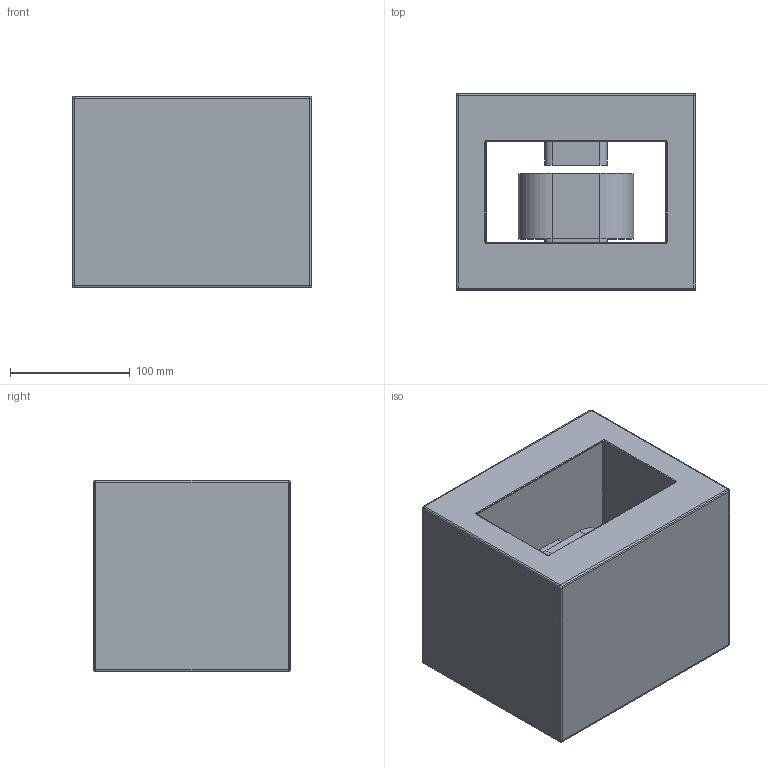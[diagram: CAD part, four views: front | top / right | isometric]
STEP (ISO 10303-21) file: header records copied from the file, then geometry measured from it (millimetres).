
FILE_DESCRIPTION(('STEP AP214'),'1');
FILE_NAME('2023-02-24_SWLS_Sirius_Prototype_CentralCoil_step.step','2023-02-27T13:51:14',(' '),(' '),'Spatial InterOp 3D',' ',' ');
FILE_SCHEMA(('AUTOMOTIVE_DESIGN { 1 0 10303 214 1 1 1 1 }'));
Length unit declared in the file: millimetre
Products named in the file (1): Inferior Copy#1_Coil0ComponentA+Inferior Copy#1_Coil0ComponentB+Inferior Copy#1_Coil0ComponentC+Inferior_Coil0ComponentA+Inferior_Coil0ComponentB+Inferior_Coil0ComponentC Union#1,Body#1
Bounding box: 200 x 164.4 x 160 mm (x, y, z)
Volume: 3487742.2 mm3; surface area: 270246.5 mm2
Topology: 4 solids, 4 shells, 104 faces, 256 edges, 152 vertices
Faces by surface type: cylinder 64, plane 24, sphere 8, torus 8
Entity records: 3096 total; most frequent: DIRECTION 600, CARTESIAN_POINT 508, ORIENTED_EDGE 496, EDGE_CURVE 248, AXIS2_PLACEMENT_3D 244, VERTEX_POINT 152, CIRCLE 136, LINE 112
